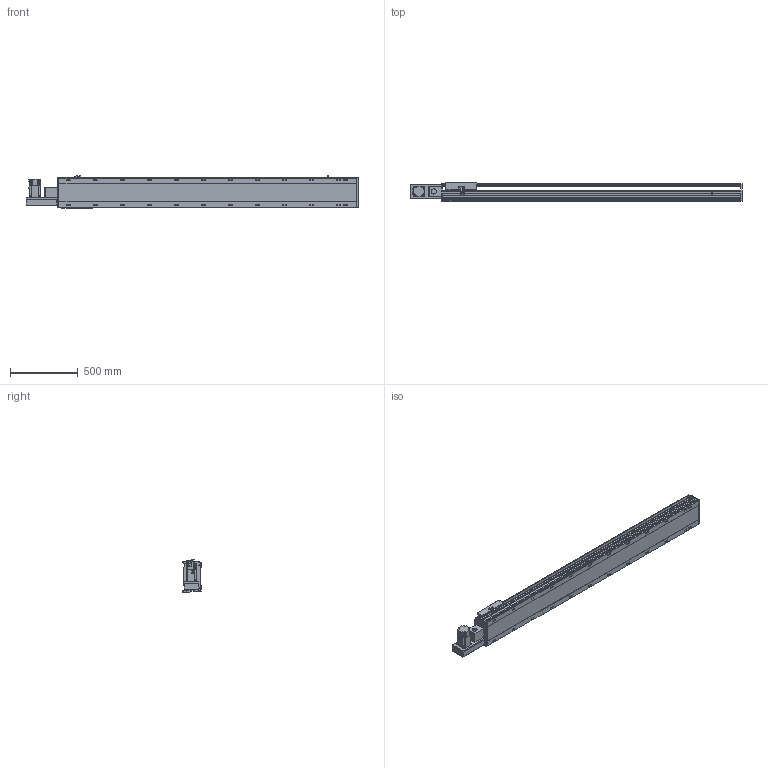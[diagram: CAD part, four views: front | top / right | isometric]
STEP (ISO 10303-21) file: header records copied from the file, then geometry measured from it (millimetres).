
FILE_DESCRIPTION(/* description */ ('STEP AP214'),/* implementation_level */ '2;1');
FILE_NAME(/* name */ 'PBS220-P40-S1850-L-T75-C1-N(0)',/* time_stamp */ '2022-06-11T09:56:46+02:00',/* author */ ('License CC BY-ND 4.0'),/* organization */ ('CADENAS'),/* preprocessor_version */ 'ST-DEVELOPER v18.102',/* originating_system */ 'PARTsolutions',/* authorisation */ ' ');
FILE_SCHEMA (('AUTOMOTIVE_DESIGN {1 0 10303 214 3 1 1}'));
Length unit declared in the file: millimetre
Products named in the file (7): PBS220-P40-S1850-L-T75-C1-N(0); PBS220_sensor; PBS220_plant; PBS220_sliser; T75-p1; PBS220T-L_motors; PBS220-S1850()_body
Assembly tree (8 placements, depth 2):
  PBS220-P40-S1850-L-T75-C1-N(0)
    PBS220_sensor  x3
    PBS220_plant
    PBS220_sliser
    T75-p1
    PBS220T-L_motors
    PBS220-S1850()_body
Bounding box: 2456 x 134 x 238.5 mm (x, y, z)
Volume: 32899158.5 mm3; surface area: 3076203.4 mm2
Topology: 8 solids, 8 shells, 962 faces, 2508 edges, 1630 vertices
Faces by surface type: plane 614, cylinder 300, cone 48
Full cylindrical faces by diameter (mm): 2.013 x4, 4.5 x14, 4.917 x4, 6 x7, 6.647 x8, 8 x10, 8.376 x24, 8.5 x24, 10 x6, 14 x24, 38 x2, 40 x1, 70 x1
Entity records: 26877 total; most frequent: CARTESIAN_POINT 4756, DIRECTION 4671, ORIENTED_EDGE 4250, EDGE_CURVE 2125, AXIS2_PLACEMENT_3D 1659, VERTEX_POINT 1480, LINE 1353, VECTOR 1353
